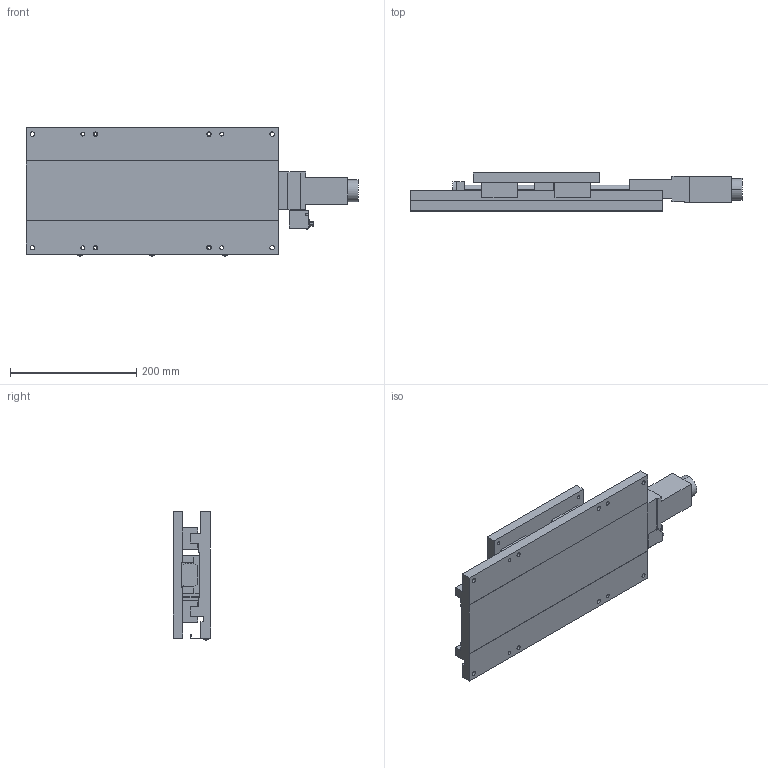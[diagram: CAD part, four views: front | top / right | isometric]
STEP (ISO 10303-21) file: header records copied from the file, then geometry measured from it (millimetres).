
FILE_DESCRIPTION (( 'STEP AP203' ), '1' );
FILE_NAME ('ALS-220-C2B1.STEP', '2023-05-02T00:05:50', ( '' ), ( '' ), 'SwSTEP 2.0', 'SolidWorks 2021', '' );
FILE_SCHEMA (( 'CONFIG_CONTROL_DESIGN' ));
Length unit declared in the file: millimetre
Products named in the file (3): ALS-220-C2B1-1; ALS-220-C2B1-2; ALS-220-C2B1
Assembly tree (2 placements, depth 2):
  ALS-220-C2B1
    ALS-220-C2B1-2
    ALS-220-C2B1-1
Bounding box: 526 x 60 x 203.4 mm (x, y, z)
Volume: 2648573.5 mm3; surface area: 409382.9 mm2
Topology: 2 solids, 5 shells, 440 faces, 1093 edges, 724 vertices
Faces by surface type: plane 227, cylinder 195, cone 12, bspline 6
Entity records: 14812 total; most frequent: CARTESIAN_POINT 3492, DIRECTION 2371, ORIENTED_EDGE 2186, EDGE_CURVE 1093, AXIS2_PLACEMENT_3D 851, VERTEX_POINT 724, VECTOR 669, LINE 669
